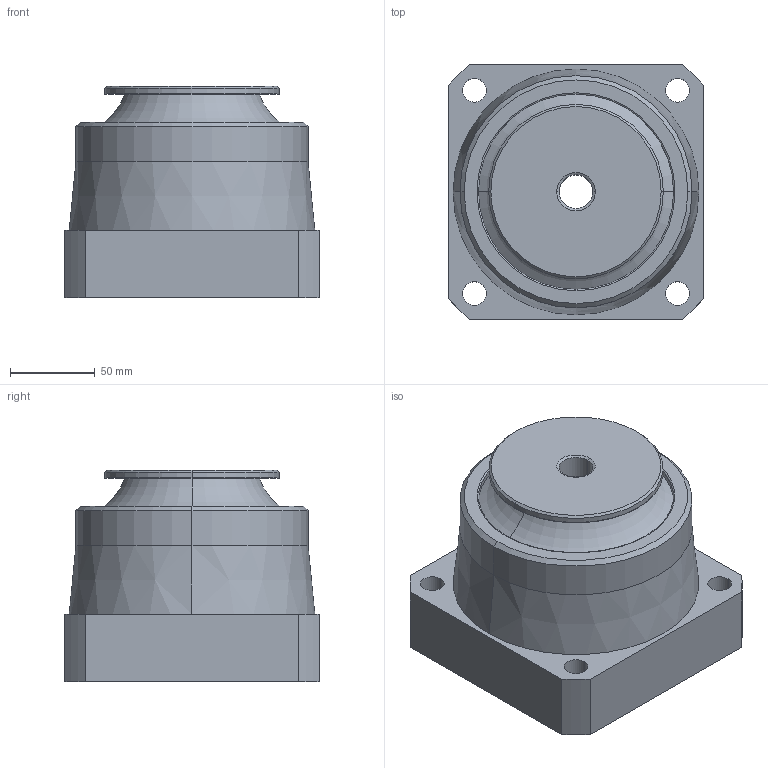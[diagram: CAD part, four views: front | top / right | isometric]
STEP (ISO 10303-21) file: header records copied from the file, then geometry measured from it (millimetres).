
FILE_DESCRIPTION(('STEP AP214'),'1');
FILE_NAME('T:/Entwicklung/EluFlex/Zeichnungen/aktuell/EluFlex 150/ZDMF/EluFlex 120 ZDMF (Kunde).stp','2017-03-06T10:43:46',(' '),(' '),'Spatial InterOp 3D',' ',' ');
FILE_SCHEMA(('automotive_design'));
Length unit declared in the file: millimetre
Products named in the file (1): 1
Bounding box: 150 x 150 x 125 mm (x, y, z)
Volume: 1463440.4 mm3; surface area: 165323.5 mm2
Topology: 1 solids, 2 shells, 94 faces, 202 edges, 116 vertices
Faces by surface type: cylinder 34, torus 28, cone 20, plane 12
Entity records: 2591 total; most frequent: DIRECTION 528, CARTESIAN_POINT 413, ORIENTED_EDGE 404, AXIS2_PLACEMENT_3D 231, EDGE_CURVE 202, CIRCLE 136, VERTEX_POINT 116, EDGE_LOOP 110
